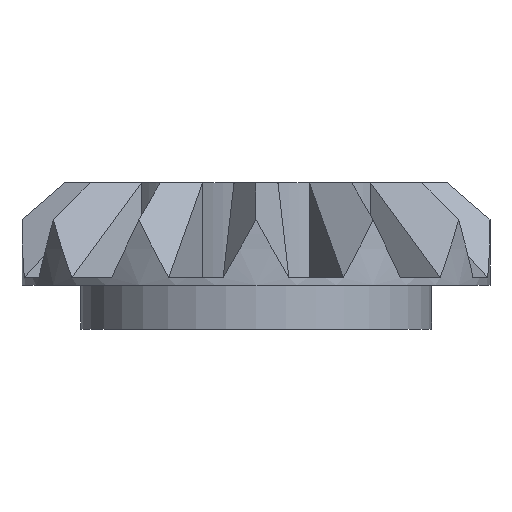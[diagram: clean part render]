
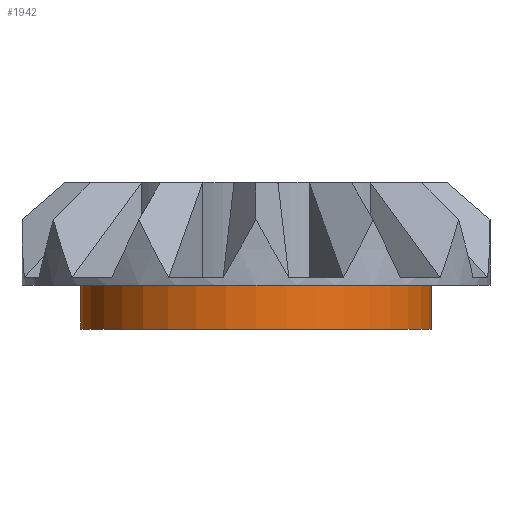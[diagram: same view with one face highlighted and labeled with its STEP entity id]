
A CAD part, front view. The second image highlights one B-rep face of the part: STEP entity #1942.
In plain terms, the highlighted cylindrical face has radius 4.8 mm (diameter 9.6 mm), a full revolution.
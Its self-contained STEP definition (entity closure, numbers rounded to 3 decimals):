
#21=CYLINDRICAL_SURFACE('',#2104,4.8);
#108=CIRCLE('',#2082,4.8);
#109=CIRCLE('',#2105,4.8);
#293=ORIENTED_EDGE('',*,*,#872,.F.);
#294=ORIENTED_EDGE('',*,*,#808,.T.);
#808=EDGE_CURVE('',#1096,#1096,#108,.T.);
#872=EDGE_CURVE('',#1160,#1160,#109,.T.);
#1096=VERTEX_POINT('',#3036);
#1160=VERTEX_POINT('',#3186);
#1613=EDGE_LOOP('',(#293));
#1614=EDGE_LOOP('',(#294));
#1737=FACE_BOUND('',#1613,.T.);
#1738=FACE_BOUND('',#1614,.T.);
#1942=ADVANCED_FACE('',(#1737,#1738),#21,.T.);
#2082=AXIS2_PLACEMENT_3D('',#3035,#2378,#2379);
#2104=AXIS2_PLACEMENT_3D('',#3184,#2485,#2486);
#2105=AXIS2_PLACEMENT_3D('',#3185,#2487,#2488);
#2378=DIRECTION('',(0.,0.,1.));
#2379=DIRECTION('',(1.,0.,0.));
#2485=DIRECTION('',(0.,0.,1.));
#2486=DIRECTION('',(1.,0.,0.));
#2487=DIRECTION('',(0.,0.,1.));
#2488=DIRECTION('',(1.,0.,0.));
#3035=CARTESIAN_POINT('',(0.,0.,-1.2));
#3036=CARTESIAN_POINT('',(4.8,0.,-1.2));
#3184=CARTESIAN_POINT('',(0.,0.,54.));
#3185=CARTESIAN_POINT('',(0.,0.,0.));
#3186=CARTESIAN_POINT('',(4.8,0.,0.));
